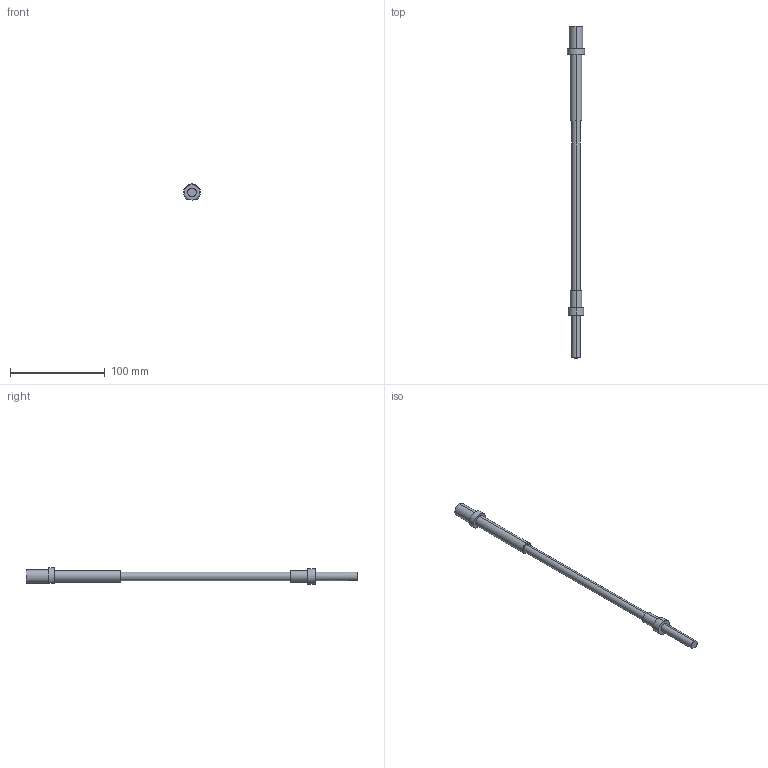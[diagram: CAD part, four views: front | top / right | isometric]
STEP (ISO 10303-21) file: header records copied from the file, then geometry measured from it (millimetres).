
FILE_DESCRIPTION (( 'STEP AP214' ), '1' );
FILE_NAME ('ed088350.STEP', '2017-04-06T08:02:36', ( '' ), ( '' ), 'SwSTEP 2.0', 'SolidWorks 2017', '' );
FILE_SCHEMA (( 'AUTOMOTIVE_DESIGN' ));
Length unit declared in the file: millimetre
Products named in the file (1): ed088350
Bounding box: 17.98 x 350.06 x 17.07 mm (x, y, z)
Volume: 30973.3 mm3; surface area: 12211.2 mm2
Topology: 1 solids, 1 shells, 24 faces, 49 edges, 32 vertices
Faces by surface type: cylinder 13, plane 11
Entity records: 674 total; most frequent: DIRECTION 126, CARTESIAN_POINT 105, ORIENTED_EDGE 96, AXIS2_PLACEMENT_3D 53, EDGE_CURVE 48, VERTEX_POINT 32, EDGE_LOOP 30, CIRCLE 28
